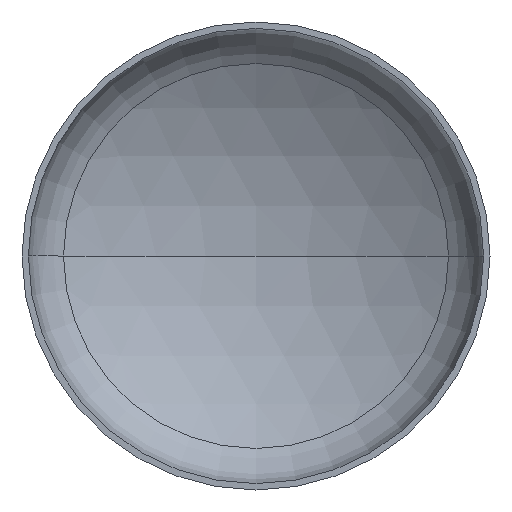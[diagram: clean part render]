
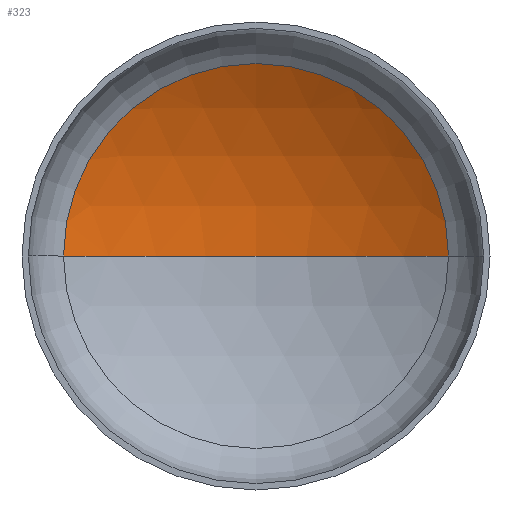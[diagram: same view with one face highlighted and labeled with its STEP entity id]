
A CAD part, front view. The second image highlights one B-rep face of the part: STEP entity #323.
In plain terms, the highlighted spherical face has radius 880 mm.
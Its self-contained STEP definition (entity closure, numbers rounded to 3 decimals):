
#1 = CIRCLE ( 'NONE', #40, 880. ) ;
#10 = DIRECTION ( 'NONE',  ( 1., 0., 0. ) ) ;
#12 = DIRECTION ( 'NONE',  ( 0., 0., 1. ) ) ;
#17 = AXIS2_PLACEMENT_3D ( 'NONE', #121, #114, #353 ) ;
#20 = CIRCLE ( 'NONE', #45, 880. ) ;
#27 = CARTESIAN_POINT ( 'NONE',  ( 0., 316.005, 0. ) ) ;
#40 = AXIS2_PLACEMENT_3D ( 'NONE', #142, #12, #10 ) ;
#45 = AXIS2_PLACEMENT_3D ( 'NONE', #176, #177, #156 ) ;
#46 = AXIS2_PLACEMENT_3D ( 'NONE', #267, #194, #193 ) ;
#79 = SPHERICAL_SURFACE ( 'NONE', #17, 880. ) ;
#85 = EDGE_CURVE ( 'NONE', #291, #192, #129, .T. ) ;
#92 = EDGE_CURVE ( 'NONE', #258, #291, #20, .T. ) ;
#98 = EDGE_CURVE ( 'NONE', #258, #192, #1, .T. ) ;
#114 = DIRECTION ( 'NONE',  ( 0., 0., -1. ) ) ;
#116 = ORIENTED_EDGE ( 'NONE', *, *, #92, .T. ) ;
#121 = CARTESIAN_POINT ( 'NONE',  ( 0., -563.995, 0. ) ) ;
#129 = CIRCLE ( 'NONE', #46, 452.394 ) ;
#142 = CARTESIAN_POINT ( 'NONE',  ( 0., -563.995, 0. ) ) ;
#156 = DIRECTION ( 'NONE',  ( -1., 0., 0. ) ) ;
#176 = CARTESIAN_POINT ( 'NONE',  ( 0., -563.995, 0. ) ) ;
#177 = DIRECTION ( 'NONE',  ( 0., 0., -1. ) ) ;
#192 = VERTEX_POINT ( 'NONE', #211 ) ;
#193 = DIRECTION ( 'NONE',  ( 1., 0., 0. ) ) ;
#194 = DIRECTION ( 'NONE',  ( 0., -1., 0. ) ) ;
#211 = CARTESIAN_POINT ( 'NONE',  ( -452.394, 190.816, 0. ) ) ;
#246 = EDGE_LOOP ( 'NONE', ( #392, #116, #308 ) ) ;
#258 = VERTEX_POINT ( 'NONE', #27 ) ;
#267 = CARTESIAN_POINT ( 'NONE',  ( 0., 190.816, 0. ) ) ;
#291 = VERTEX_POINT ( 'NONE', #387 ) ;
#308 = ORIENTED_EDGE ( 'NONE', *, *, #85, .T. ) ;
#323 = ADVANCED_FACE ( 'NONE', ( #382 ), #79, .F. ) ;
#353 = DIRECTION ( 'NONE',  ( -1., 0., 0. ) ) ;
#382 = FACE_OUTER_BOUND ( 'NONE', #246, .T. ) ;
#387 = CARTESIAN_POINT ( 'NONE',  ( 452.394, 190.816, 0. ) ) ;
#392 = ORIENTED_EDGE ( 'NONE', *, *, #98, .F. ) ;
